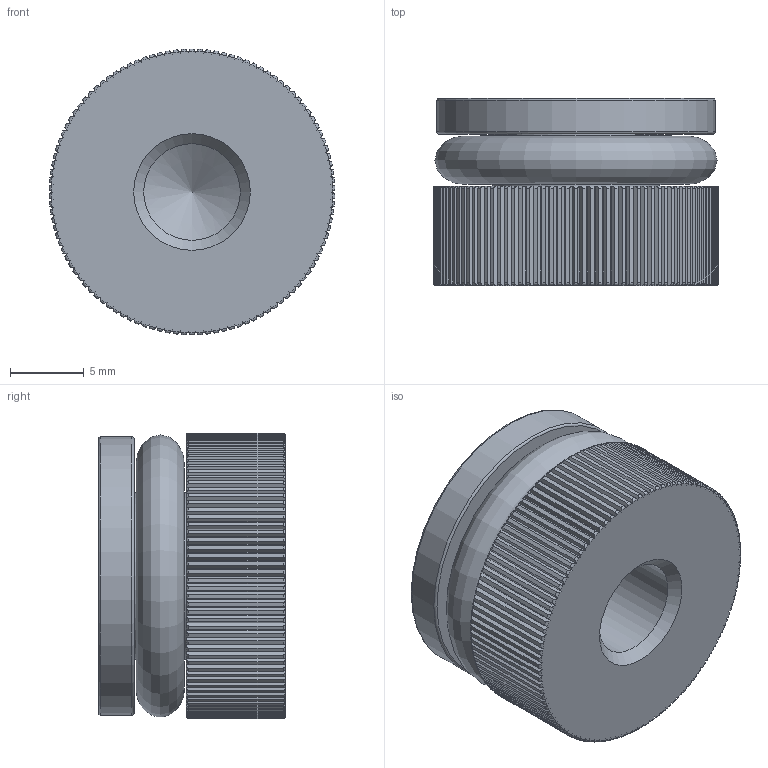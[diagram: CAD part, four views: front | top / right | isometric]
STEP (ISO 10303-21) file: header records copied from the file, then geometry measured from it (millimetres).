
FILE_DESCRIPTION(/* description */ (''),/* implementation_level */ '2;1');
FILE_NAME(/* name */ 'C:/Users/drich/Desktop/TIP-750 v1.step',/* time_stamp */ '2020-01-08T20:03:24-06:00',/* author */ (''),/* organization */ (''),/* preprocessor_version */ 'ST-DEVELOPER v18',/* originating_system */ 'Autodesk Translation Framework v8.12.0.6',/* authorisation */ '');
FILE_SCHEMA (('AUTOMOTIVE_DESIGN { 1 0 10303 214 3 1 1 }'));
Length unit declared in the file: inch
Products named in the file (1): TIP-750
Bounding box: 19.43 x 12.7 x 19.43 mm (x, y, z)
Volume: 3203.7 mm3; surface area: 2529 mm2
Topology: 2 solids, 2 shells, 562 faces, 1678 edges, 1120 vertices
Faces by surface type: plane 224, torus 222, cylinder 113, cone 2, bspline 1
Full cylindrical faces by diameter (mm): 6.566 x1, 11.328 x1, 18.923 x1
Entity records: 22152 total; most frequent: CARTESIAN_POINT 7400, ORIENTED_EDGE 3354, DIRECTION 2823, EDGE_CURVE 1677, VERTEX_POINT 1120, AXIS2_PLACEMENT_3D 1024, LINE 775, VECTOR 775
